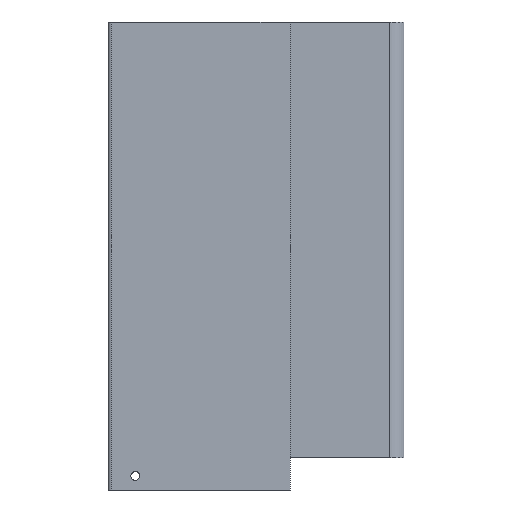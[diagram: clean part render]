
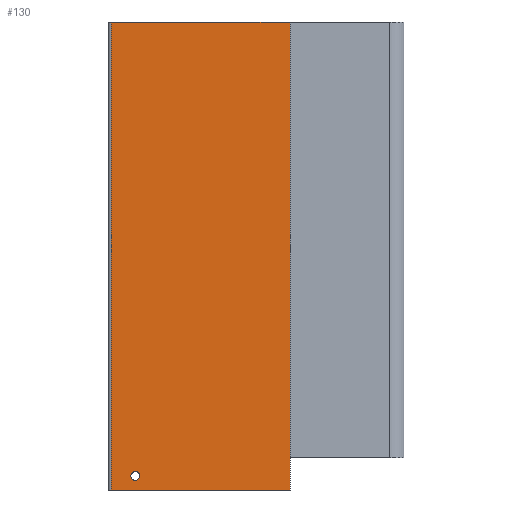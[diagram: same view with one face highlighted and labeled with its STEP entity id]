
A CAD part, left-side view. The second image highlights one B-rep face of the part: STEP entity #130.
In plain terms, the highlighted planar face has unit normal (-1, 0.011, 0).
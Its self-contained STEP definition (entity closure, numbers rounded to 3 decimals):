
#13 = ORIENTED_EDGE ( 'NONE', *, *, #24, .F. ) ;
#24 = EDGE_CURVE ( 'NONE', #192, #485, #690, .T. ) ;
#28 = CARTESIAN_POINT ( 'NONE',  ( -9.1, -87.495, 0. ) ) ;
#69 = EDGE_CURVE ( 'NONE', #485, #405, #523, .T. ) ;
#81 = ORIENTED_EDGE ( 'NONE', *, *, #89, .T. ) ;
#84 = EDGE_CURVE ( 'NONE', #649, #192, #131, .T. ) ;
#89 = EDGE_CURVE ( 'NONE', #649, #405, #665, .T. ) ;
#91 = FACE_OUTER_BOUND ( 'NONE', #880, .T. ) ;
#130 = ADVANCED_FACE ( 'NONE', ( #451, #91 ), #318, .F. ) ;
#131 = LINE ( 'NONE', #467, #547 ) ;
#178 = DIRECTION ( 'NONE',  ( -0.011, -1., 0. ) ) ;
#192 = VERTEX_POINT ( 'NONE', #197 ) ;
#197 = CARTESIAN_POINT ( 'NONE',  ( -8.015, 14.62, -267.5 ) ) ;
#284 = EDGE_LOOP ( 'NONE', ( #818, #838 ) ) ;
#308 = CARTESIAN_POINT ( 'NONE',  ( -8.015, 14.62, -419.403 ) ) ;
#317 = DIRECTION ( 'NONE',  ( 1., -0.011, 0. ) ) ;
#318 = PLANE ( 'NONE',  #335 ) ;
#320 = CARTESIAN_POINT ( 'NONE',  ( -8.159, 1., -262. ) ) ;
#335 = AXIS2_PLACEMENT_3D ( 'NONE', #308, #317, #178 ) ;
#391 = DIRECTION ( 'NONE',  ( 0., 0., 1. ) ) ;
#405 = VERTEX_POINT ( 'NONE', #28 ) ;
#410 = CARTESIAN_POINT ( 'NONE',  ( -8.015, 14.62, 0. ) ) ;
#411 =( BOUNDED_CURVE ( )  B_SPLINE_CURVE ( 3, ( #787, #792, #795, #783 ),
 .UNSPECIFIED., .F., .F. ) 
 B_SPLINE_CURVE_WITH_KNOTS ( ( 4, 4 ),
 ( 4.712, 7.854 ),
 .UNSPECIFIED. ) 
 CURVE ( )  GEOMETRIC_REPRESENTATION_ITEM ( )  RATIONAL_B_SPLINE_CURVE ( ( 1., 0.333, 0.333, 1. ) ) 
 REPRESENTATION_ITEM ( '' )  );
#436 = EDGE_CURVE ( 'NONE', #668, #751, #411, .T. ) ;
#448 = CARTESIAN_POINT ( 'NONE',  ( -8.159, 1., -257. ) ) ;
#451 = FACE_BOUND ( 'NONE', #284, .T. ) ;
#456 = CARTESIAN_POINT ( 'NONE',  ( -9.1, -87.495, -419.403 ) ) ;
#460 = CARTESIAN_POINT ( 'NONE',  ( -9.1, -87.495, -267.5 ) ) ;
#467 = CARTESIAN_POINT ( 'NONE',  ( -8.015, 14.62, -267.5 ) ) ;
#470 = DIRECTION ( 'NONE',  ( 0.011, 1., 0. ) ) ;
#475 = DIRECTION ( 'NONE',  ( -0.011, -1., 0. ) ) ;
#485 = VERTEX_POINT ( 'NONE', #743 ) ;
#502 = VECTOR ( 'NONE', #678, 1000. ) ;
#523 = LINE ( 'NONE', #410, #850 ) ;
#535 = ORIENTED_EDGE ( 'NONE', *, *, #84, .F. ) ;
#547 = VECTOR ( 'NONE', #470, 1000. ) ;
#563 = CARTESIAN_POINT ( 'NONE',  ( -8.159, 1., -257. ) ) ;
#564 = CARTESIAN_POINT ( 'NONE',  ( -8.213, -4., -257. ) ) ;
#566 = CARTESIAN_POINT ( 'NONE',  ( -8.213, -4., -262. ) ) ;
#570 = CARTESIAN_POINT ( 'NONE',  ( -8.159, 1., -262. ) ) ;
#587 = EDGE_CURVE ( 'NONE', #751, #668, #817, .T. ) ;
#649 = VERTEX_POINT ( 'NONE', #460 ) ;
#665 = LINE ( 'NONE', #456, #810 ) ;
#668 = VERTEX_POINT ( 'NONE', #448 ) ;
#676 = CARTESIAN_POINT ( 'NONE',  ( -8.015, 14.62, -419.403 ) ) ;
#678 = DIRECTION ( 'NONE',  ( 0., 0., 1. ) ) ;
#690 = LINE ( 'NONE', #676, #502 ) ;
#743 = CARTESIAN_POINT ( 'NONE',  ( -8.015, 14.62, 0. ) ) ;
#751 = VERTEX_POINT ( 'NONE', #320 ) ;
#783 = CARTESIAN_POINT ( 'NONE',  ( -8.159, 1., -262. ) ) ;
#787 = CARTESIAN_POINT ( 'NONE',  ( -8.159, 1., -257. ) ) ;
#792 = CARTESIAN_POINT ( 'NONE',  ( -8.106, 6., -257. ) ) ;
#795 = CARTESIAN_POINT ( 'NONE',  ( -8.106, 6., -262. ) ) ;
#810 = VECTOR ( 'NONE', #391, 1000. ) ;
#817 =( BOUNDED_CURVE ( )  B_SPLINE_CURVE ( 3, ( #570, #566, #564, #563 ),
 .UNSPECIFIED., .F., .F. ) 
 B_SPLINE_CURVE_WITH_KNOTS ( ( 4, 4 ),
 ( 1.571, 4.712 ),
 .UNSPECIFIED. ) 
 CURVE ( )  GEOMETRIC_REPRESENTATION_ITEM ( )  RATIONAL_B_SPLINE_CURVE ( ( 1., 0.333, 0.333, 1. ) ) 
 REPRESENTATION_ITEM ( '' )  );
#818 = ORIENTED_EDGE ( 'NONE', *, *, #436, .F. ) ;
#838 = ORIENTED_EDGE ( 'NONE', *, *, #587, .F. ) ;
#841 = ORIENTED_EDGE ( 'NONE', *, *, #69, .F. ) ;
#850 = VECTOR ( 'NONE', #475, 1000. ) ;
#880 = EDGE_LOOP ( 'NONE', ( #81, #841, #13, #535 ) ) ;
